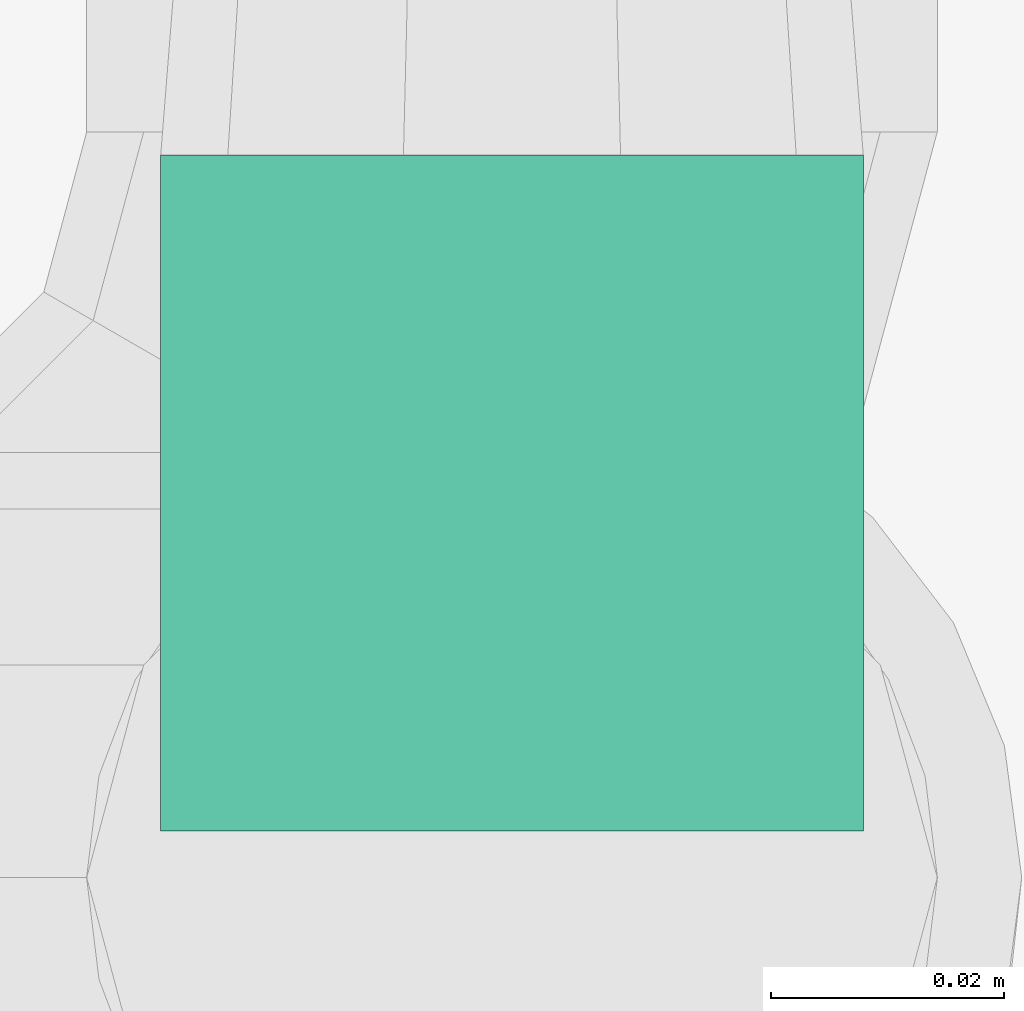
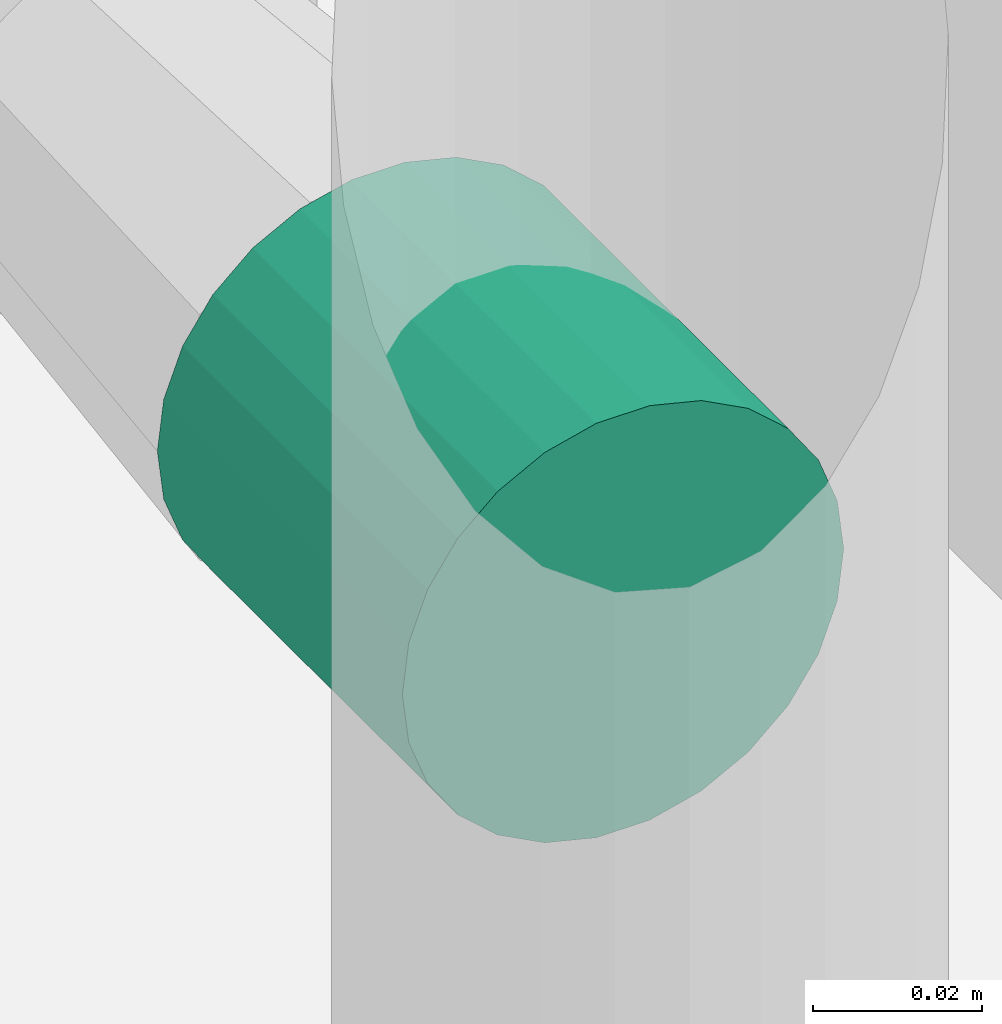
# One storey, part 22 of 43: 1 flow segment.
"""IFC2X3 building model written with IfcOpenShell, lengths in millimetres."""

from ifc_helpers import new_model, entity, si_unit, converted_unit, derived_unit, direction, frame, frame_2d, origin, place, context, subcontext, project, spatial, circle, extrude, type_object, element, save


model = new_model("IFC2X3")

# Units and contexts
model_context = context("Model", 3, precision=0.01, world=origin(), true_north=direction((6.123031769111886e-17, 1.0)))
body_context = subcontext(model_context, "Body", "Model", "MODEL_VIEW")
ifc_project = project(units=[si_unit("LENGTHUNIT", "METRE", prefix="MILLI"), si_unit("AREAUNIT", "SQUARE_METRE"), si_unit("VOLUMEUNIT", "CUBIC_METRE"), converted_unit("PLANEANGLEUNIT", "DEGREE", entity("IfcRatioMeasure", 0.017453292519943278), si_unit("PLANEANGLEUNIT", "RADIAN"), dimensions=[0, 0, 0, 0, 0, 0, 0]), si_unit("MASSUNIT", "GRAM", prefix="KILO"), derived_unit("MASSDENSITYUNIT", [(si_unit("MASSUNIT", "GRAM", prefix="KILO"), 1), (si_unit("LENGTHUNIT", "METRE"), -3)]), derived_unit("MOMENTOFINERTIAUNIT", [(si_unit("LENGTHUNIT", "METRE"), 4)]), si_unit("TIMEUNIT", "SECOND"), si_unit("FREQUENCYUNIT", "HERTZ"), si_unit("THERMODYNAMICTEMPERATUREUNIT", "DEGREE_CELSIUS"), derived_unit("THERMALTRANSMITTANCEUNIT", [(si_unit("MASSUNIT", "GRAM", prefix="KILO"), 1), (si_unit("THERMODYNAMICTEMPERATUREUNIT", "KELVIN"), -1), (si_unit("TIMEUNIT", "SECOND"), -3)]), derived_unit("VOLUMETRICFLOWRATEUNIT", [(si_unit("LENGTHUNIT", "METRE"), 3), (si_unit("TIMEUNIT", "SECOND"), -1)]), derived_unit("MASSFLOWRATEUNIT", [(si_unit("MASSUNIT", "GRAM", prefix="KILO"), 1), (si_unit("TIMEUNIT", "SECOND"), -1)]), derived_unit("ROTATIONALFREQUENCYUNIT", [(si_unit("TIMEUNIT", "SECOND"), -1)]), si_unit("ELECTRICCURRENTUNIT", "AMPERE"), si_unit("ELECTRICVOLTAGEUNIT", "VOLT"), si_unit("POWERUNIT", "WATT"), si_unit("FORCEUNIT", "NEWTON", prefix="KILO"), si_unit("ILLUMINANCEUNIT", "LUX"), si_unit("LUMINOUSFLUXUNIT", "LUMEN"), si_unit("LUMINOUSINTENSITYUNIT", "CANDELA"), derived_unit("USERDEFINED", [(si_unit("MASSUNIT", "GRAM", prefix="KILO"), -1), (si_unit("LENGTHUNIT", "METRE"), -2), (si_unit("TIMEUNIT", "SECOND"), 3), (si_unit("LUMINOUSFLUXUNIT", "LUMEN"), 1)]), derived_unit("SOUNDPOWERUNIT", [(si_unit("MASSUNIT", "GRAM", prefix="KILO"), 1), (si_unit("LENGTHUNIT", "METRE"), 2), (si_unit("TIMEUNIT", "SECOND"), -3)]), derived_unit("SOUNDPRESSUREUNIT", [(si_unit("MASSUNIT", "GRAM", prefix="KILO"), 1), (si_unit("LENGTHUNIT", "METRE"), -1), (si_unit("TIMEUNIT", "SECOND"), -2)]), derived_unit("LINEARVELOCITYUNIT", [(si_unit("LENGTHUNIT", "METRE"), 1), (si_unit("TIMEUNIT", "SECOND"), -1)]), si_unit("PRESSUREUNIT", "PASCAL"), derived_unit("USERDEFINED", [(si_unit("LENGTHUNIT", "METRE"), -2), (si_unit("MASSUNIT", "GRAM", prefix="KILO"), 1), (si_unit("TIMEUNIT", "SECOND"), -2)]), derived_unit("LINEARFORCEUNIT", [(si_unit("MASSUNIT", "GRAM", prefix="KILO"), 1), (si_unit("LENGTHUNIT", "METRE"), 1), (si_unit("TIMEUNIT", "SECOND"), -2), (si_unit("LENGTHUNIT", "METRE"), -1)]), derived_unit("PLANARFORCEUNIT", [(si_unit("MASSUNIT", "GRAM", prefix="KILO"), 1), (si_unit("LENGTHUNIT", "METRE"), 1), (si_unit("TIMEUNIT", "SECOND"), -2), (si_unit("LENGTHUNIT", "METRE"), -2)])], contexts=[model_context])

# Site, building, storey
site_placement = place(None, origin())
site = spatial("IfcSite", under=ifc_project, at=site_placement, Name="Default", CompositionType="ELEMENT")
building_placement = place(site_placement, origin())
building = spatial("IfcBuilding", under=site, at=building_placement, CompositionType="ELEMENT")
storey_placement = place(building_placement, frame((0.0, 0.0, 270.0)))
storey = spatial("IfcBuildingStorey", under=building, at=storey_placement, Name="Niveau 0", CompositionType="ELEMENT", Elevation=270.0)

# Flow segment
pipe_segment_type = type_object("IfcPipeSegmentType", Name="Canalisation:tube acier", PredefinedType="NOTDEFINED")
flow_segment_placement = place(storey_placement, origin())
element("IfcFlowSegment", 1, at=flow_segment_placement, inside=storey, type_object=pipe_segment_type, Name="Canalisation:tube acier", ObjectType="Canalisation:tube acier", context=body_context, shape_type="SweptSolid", body=[
    extrude(circle(Radius=30.162500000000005, at=frame_2d((-2.680096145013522e-11, 8.60260488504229e-26), x_axis=(1.0, 0.0))), frame((-1682.0, -9611.0, 1849.8262850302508), z_axis=(0.0, 1.0, 0.0), x_axis=(-1.0, 0.0, 0.0)), (0.0, 0.0, 1.0), 57.999999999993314),
])

save(model, "model.ifc")
